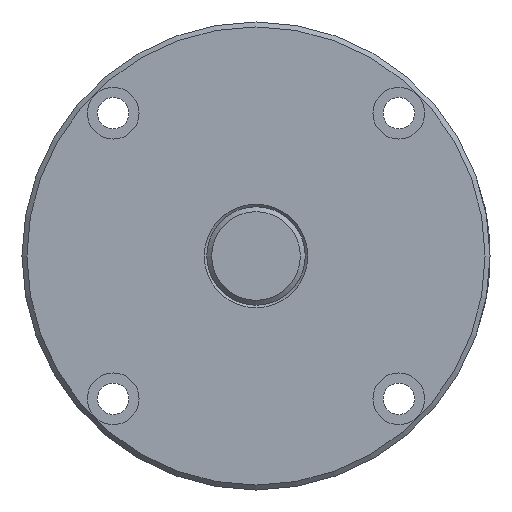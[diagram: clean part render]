
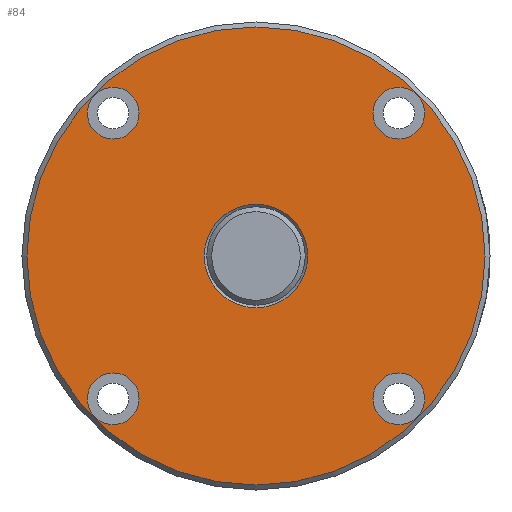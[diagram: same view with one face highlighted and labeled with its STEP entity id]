
A CAD part, left-side view. The second image highlights one B-rep face of the part: STEP entity #84.
In plain terms, the highlighted planar face has unit normal (-1, 0, 0).
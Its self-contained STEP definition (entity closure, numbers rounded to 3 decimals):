
#84 = ADVANCED_FACE( '', ( #138, #139, #140, #141, #142, #143 ), #144, .T. );
#138 = FACE_BOUND( '', #238, .T. );
#139 = FACE_BOUND( '', #239, .T. );
#140 = FACE_BOUND( '', #240, .T. );
#141 = FACE_BOUND( '', #241, .T. );
#142 = FACE_OUTER_BOUND( '', #242, .T. );
#143 = FACE_BOUND( '', #243, .T. );
#144 = PLANE( '', #244 );
#238 = EDGE_LOOP( '', ( #356 ) );
#239 = EDGE_LOOP( '', ( #357 ) );
#240 = EDGE_LOOP( '', ( #358 ) );
#241 = EDGE_LOOP( '', ( #359 ) );
#242 = EDGE_LOOP( '', ( #360 ) );
#243 = EDGE_LOOP( '', ( #361 ) );
#244 = AXIS2_PLACEMENT_3D( '', #362, #363, #364 );
#356 = ORIENTED_EDGE( '', *, *, #487, .T. );
#357 = ORIENTED_EDGE( '', *, *, #488, .T. );
#358 = ORIENTED_EDGE( '', *, *, #489, .T. );
#359 = ORIENTED_EDGE( '', *, *, #490, .T. );
#360 = ORIENTED_EDGE( '', *, *, #491, .T. );
#361 = ORIENTED_EDGE( '', *, *, #492, .F. );
#362 = CARTESIAN_POINT( '', ( 5., 0., 10.5 ) );
#363 = DIRECTION( '', ( -1., 0., 0. ) );
#364 = DIRECTION( '', ( 0., 0., 1. ) );
#487 = EDGE_CURVE( '', #538, #538, #539, .T. );
#488 = EDGE_CURVE( '', #540, #540, #541, .T. );
#489 = EDGE_CURVE( '', #542, #542, #543, .T. );
#490 = EDGE_CURVE( '', #544, #544, #545, .T. );
#491 = EDGE_CURVE( '', #546, #546, #547, .T. );
#492 = EDGE_CURVE( '', #548, #548, #549, .T. );
#538 = VERTEX_POINT( '', #700 );
#539 = CIRCLE( '', #701, 5.25 );
#540 = VERTEX_POINT( '', #702 );
#541 = CIRCLE( '', #703, 5.25 );
#542 = VERTEX_POINT( '', #704 );
#543 = CIRCLE( '', #705, 5.25 );
#544 = VERTEX_POINT( '', #706 );
#545 = CIRCLE( '', #707, 5.25 );
#546 = VERTEX_POINT( '', #708 );
#547 = CIRCLE( '', #709, 46.5 );
#548 = VERTEX_POINT( '', #710 );
#549 = CIRCLE( '', #711, 10.5 );
#700 = CARTESIAN_POINT( '', ( 5., 28.991, 34.241 ) );
#701 = AXIS2_PLACEMENT_3D( '', #782, #783, #784 );
#702 = CARTESIAN_POINT( '', ( 5., 28.991, -23.741 ) );
#703 = AXIS2_PLACEMENT_3D( '', #785, #786, #787 );
#704 = CARTESIAN_POINT( '', ( 5., -28.991, -23.741 ) );
#705 = AXIS2_PLACEMENT_3D( '', #788, #789, #790 );
#706 = CARTESIAN_POINT( '', ( 5., -28.991, 34.241 ) );
#707 = AXIS2_PLACEMENT_3D( '', #791, #792, #793 );
#708 = CARTESIAN_POINT( '', ( 5., 0., 46.5 ) );
#709 = AXIS2_PLACEMENT_3D( '', #794, #795, #796 );
#710 = CARTESIAN_POINT( '', ( 5., 0., 10.5 ) );
#711 = AXIS2_PLACEMENT_3D( '', #797, #798, #799 );
#782 = CARTESIAN_POINT( '', ( 5., 28.991, 28.991 ) );
#783 = DIRECTION( '', ( 1., 0., 0. ) );
#784 = DIRECTION( '', ( 0., 0., 1. ) );
#785 = CARTESIAN_POINT( '', ( 5., 28.991, -28.991 ) );
#786 = DIRECTION( '', ( 1., 0., 0. ) );
#787 = DIRECTION( '', ( 0., 0., 1. ) );
#788 = CARTESIAN_POINT( '', ( 5., -28.991, -28.991 ) );
#789 = DIRECTION( '', ( 1., 0., 0. ) );
#790 = DIRECTION( '', ( 0., 0., 1. ) );
#791 = CARTESIAN_POINT( '', ( 5., -28.991, 28.991 ) );
#792 = DIRECTION( '', ( 1., 0., 0. ) );
#793 = DIRECTION( '', ( 0., 0., 1. ) );
#794 = CARTESIAN_POINT( '', ( 5., 0., 0. ) );
#795 = DIRECTION( '', ( -1., 0., 0. ) );
#796 = DIRECTION( '', ( 0., 0., 1. ) );
#797 = CARTESIAN_POINT( '', ( 5., 0., 0. ) );
#798 = DIRECTION( '', ( -1., 0., 0. ) );
#799 = DIRECTION( '', ( 0., 0., 1. ) );
